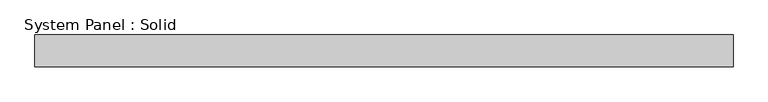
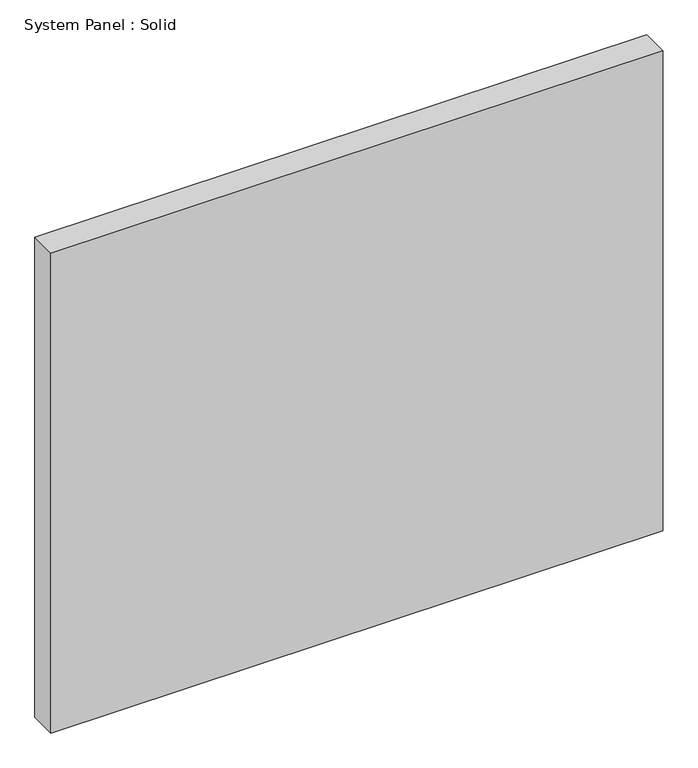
"""IFC4 building model written with IfcOpenShell, lengths in millimetres: plate geometry, System Panel : Solid."""

from ifc_helpers import new_model, si_unit, origin, origin_with_axes, place, context, project, spatial, polyline, outline, extrude, source, transform, mapped, element, save


def system_panel_solid_7b03d3b8(model_context):
    return source(origin(), model_context, "Body", "SweptSolid", [
        extrude(outline(polyline([(697.1738156, -19.05), (-697.1738156, -19.05), (-697.1738156, 44.45), (697.1738156, 44.45), (697.1738156, -19.05)])), origin_with_axes(), (0.0, 0.0, 1.0), 1155.7),
    ])


if __name__ == "__main__":
    model = new_model("IFC4")
    model_context = context("Model", 3, world=origin())
    ifc_project = project(units=[si_unit("LENGTHUNIT", "METRE", prefix="MILLI")], contexts=[model_context])
    site = spatial("IfcSite", under=ifc_project)
    building = spatial("IfcBuilding", under=site)
    placement = place(None, origin())
    system_panel_solid_shape = system_panel_solid_7b03d3b8(model_context)
    element("IfcPlate", 1, ObjectType="System Panel : Solid", at=placement, inside=building, context=model_context, shape_type="MappedRepresentation", body=[
        mapped(system_panel_solid_shape, transform((0.0, 0.0, 0.0), x_axis=(1.0, 0.0, 0.0), y_axis=(0.0, 1.0, 0.0), z_axis=(0.0, 0.0, 1.0))),
    ])
    save(model, "model.ifc")
